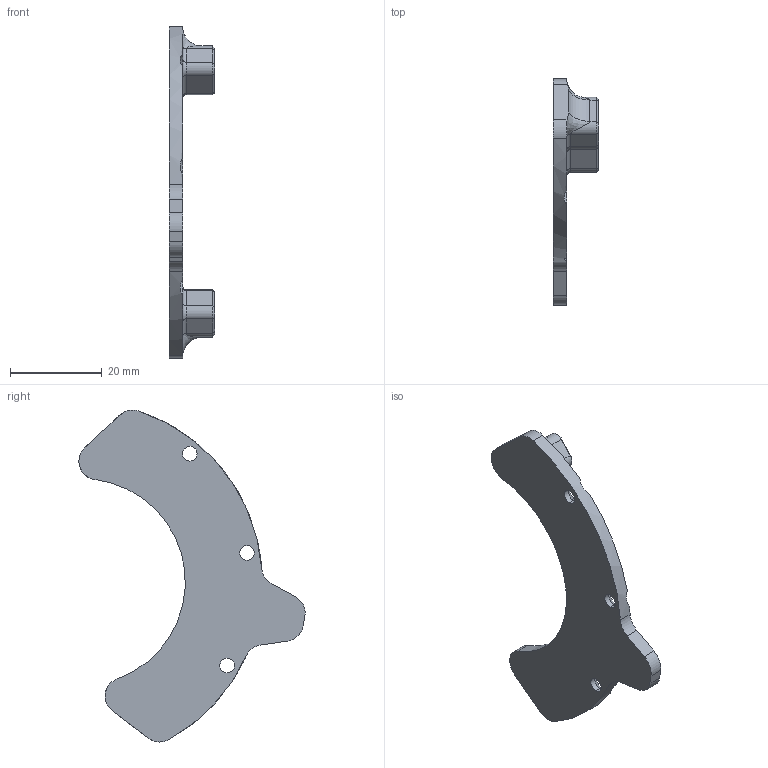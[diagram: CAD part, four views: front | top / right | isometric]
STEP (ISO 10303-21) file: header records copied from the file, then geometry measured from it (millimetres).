
FILE_DESCRIPTION((''),'2;1');
FILE_NAME('KD-D-506R_ENDSTOP_80DEG_1','2025-07-12T17:49:24',('Administrator'),(''),'CREO PARAMETRIC BY PTC INC, 2022073','CREO PARAMETRIC BY PTC INC, 2022073','');
FILE_SCHEMA(('CONFIG_CONTROL_DESIGN'));
Length unit declared in the file: millimetre
Products named in the file (1): KD-D-506R_ENDSTOP_80DEG_1
Bounding box: 10 x 49.34 x 72.41 mm (x, y, z)
Volume: 5596.8 mm3; surface area: 4090.4 mm2
Topology: 1 solids, 1 shells, 92 faces, 245 edges, 152 vertices
Faces by surface type: cylinder 37, plane 29, cone 16, torus 6, bspline 4
Entity records: 3700 total; most frequent: CARTESIAN_POINT 1334, DIRECTION 504, ORIENTED_EDGE 490, EDGE_CURVE 245, AXIS2_PLACEMENT_3D 194, VERTEX_POINT 152, VECTOR 116, LINE 116
